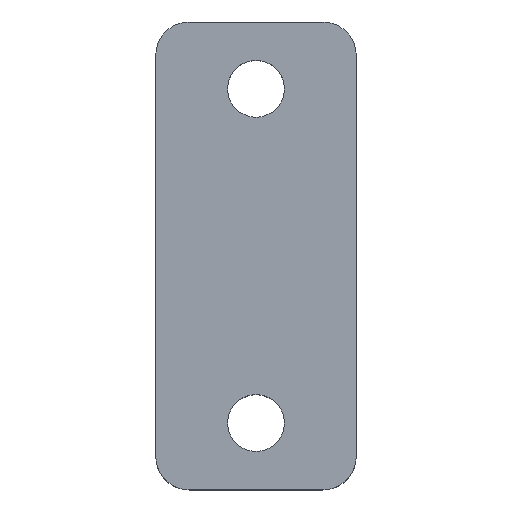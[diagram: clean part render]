
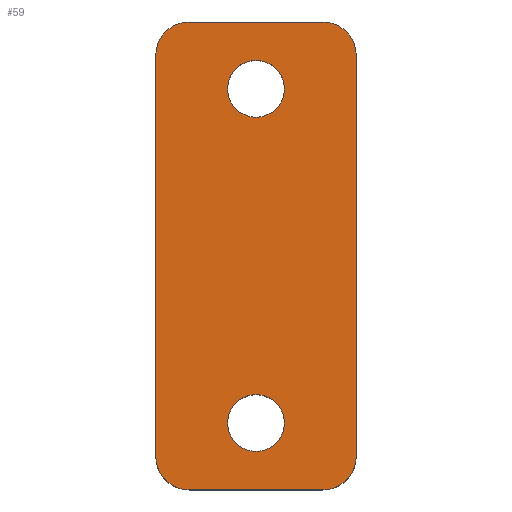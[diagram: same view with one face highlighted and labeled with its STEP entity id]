
A CAD part, top view. The second image highlights one B-rep face of the part: STEP entity #59.
In plain terms, the highlighted planar face has unit normal (0, 0, 1).
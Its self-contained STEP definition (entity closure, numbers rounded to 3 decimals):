
#21 = EDGE_CURVE('',#22,#24,#26,.T.);
#22 = VERTEX_POINT('',#23);
#23 = CARTESIAN_POINT('',(-18.,6.,20.2));
#24 = VERTEX_POINT('',#25);
#25 = CARTESIAN_POINT('',(-16.,4.,20.2));
#26 = CIRCLE('',#27,2.);
#27 = AXIS2_PLACEMENT_3D('',#28,#29,#30);
#28 = CARTESIAN_POINT('',(-16.,6.,20.2));
#29 = DIRECTION('',(0.,0.,1.));
#30 = DIRECTION('',(1.,0.,-0.));
#59 = ADVANCED_FACE('',(#60,#120,#131),#142,.T.);
#60 = FACE_BOUND('',#61,.T.);
#61 = EDGE_LOOP('',(#62,#63,#71,#80,#88,#97,#105,#114));
#62 = ORIENTED_EDGE('',*,*,#21,.T.);
#63 = ORIENTED_EDGE('',*,*,#64,.T.);
#64 = EDGE_CURVE('',#24,#65,#67,.T.);
#65 = VERTEX_POINT('',#66);
#66 = CARTESIAN_POINT('',(-8.,4.,20.2));
#67 = LINE('',#68,#69);
#68 = CARTESIAN_POINT('',(-16.,4.,20.2));
#69 = VECTOR('',#70,1.);
#70 = DIRECTION('',(1.,0.,-0.));
#71 = ORIENTED_EDGE('',*,*,#72,.T.);
#72 = EDGE_CURVE('',#65,#73,#75,.T.);
#73 = VERTEX_POINT('',#74);
#74 = CARTESIAN_POINT('',(-6.,6.,20.2));
#75 = CIRCLE('',#76,2.);
#76 = AXIS2_PLACEMENT_3D('',#77,#78,#79);
#77 = CARTESIAN_POINT('',(-8.,6.,20.2));
#78 = DIRECTION('',(0.,0.,1.));
#79 = DIRECTION('',(1.,0.,-0.));
#80 = ORIENTED_EDGE('',*,*,#81,.T.);
#81 = EDGE_CURVE('',#73,#82,#84,.T.);
#82 = VERTEX_POINT('',#83);
#83 = CARTESIAN_POINT('',(-6.,30.,20.2));
#84 = LINE('',#85,#86);
#85 = CARTESIAN_POINT('',(-6.,6.,20.2));
#86 = VECTOR('',#87,1.);
#87 = DIRECTION('',(-0.,1.,0.));
#88 = ORIENTED_EDGE('',*,*,#89,.T.);
#89 = EDGE_CURVE('',#82,#90,#92,.T.);
#90 = VERTEX_POINT('',#91);
#91 = CARTESIAN_POINT('',(-8.,32.,20.2));
#92 = CIRCLE('',#93,2.);
#93 = AXIS2_PLACEMENT_3D('',#94,#95,#96);
#94 = CARTESIAN_POINT('',(-8.,30.,20.2));
#95 = DIRECTION('',(0.,0.,1.));
#96 = DIRECTION('',(1.,0.,-0.));
#97 = ORIENTED_EDGE('',*,*,#98,.F.);
#98 = EDGE_CURVE('',#99,#90,#101,.T.);
#99 = VERTEX_POINT('',#100);
#100 = CARTESIAN_POINT('',(-16.,32.,20.2));
#101 = LINE('',#102,#103);
#102 = CARTESIAN_POINT('',(-16.,32.,20.2));
#103 = VECTOR('',#104,1.);
#104 = DIRECTION('',(1.,0.,-0.));
#105 = ORIENTED_EDGE('',*,*,#106,.T.);
#106 = EDGE_CURVE('',#99,#107,#109,.T.);
#107 = VERTEX_POINT('',#108);
#108 = CARTESIAN_POINT('',(-18.,30.,20.2));
#109 = CIRCLE('',#110,2.);
#110 = AXIS2_PLACEMENT_3D('',#111,#112,#113);
#111 = CARTESIAN_POINT('',(-16.,30.,20.2));
#112 = DIRECTION('',(0.,0.,1.));
#113 = DIRECTION('',(1.,0.,-0.));
#114 = ORIENTED_EDGE('',*,*,#115,.F.);
#115 = EDGE_CURVE('',#22,#107,#116,.T.);
#116 = LINE('',#117,#118);
#117 = CARTESIAN_POINT('',(-18.,6.,20.2));
#118 = VECTOR('',#119,1.);
#119 = DIRECTION('',(-0.,1.,0.));
#120 = FACE_BOUND('',#121,.T.);
#121 = EDGE_LOOP('',(#122));
#122 = ORIENTED_EDGE('',*,*,#123,.F.);
#123 = EDGE_CURVE('',#124,#124,#126,.T.);
#124 = VERTEX_POINT('',#125);
#125 = CARTESIAN_POINT('',(-10.3,8.,20.2));
#126 = CIRCLE('',#127,1.7);
#127 = AXIS2_PLACEMENT_3D('',#128,#129,#130);
#128 = CARTESIAN_POINT('',(-12.,8.,20.2));
#129 = DIRECTION('',(0.,0.,1.));
#130 = DIRECTION('',(1.,0.,-0.));
#131 = FACE_BOUND('',#132,.T.);
#132 = EDGE_LOOP('',(#133));
#133 = ORIENTED_EDGE('',*,*,#134,.F.);
#134 = EDGE_CURVE('',#135,#135,#137,.T.);
#135 = VERTEX_POINT('',#136);
#136 = CARTESIAN_POINT('',(-10.3,28.,20.2));
#137 = CIRCLE('',#138,1.7);
#138 = AXIS2_PLACEMENT_3D('',#139,#140,#141);
#139 = CARTESIAN_POINT('',(-12.,28.,20.2));
#140 = DIRECTION('',(0.,0.,1.));
#141 = DIRECTION('',(1.,0.,-0.));
#142 = PLANE('',#143);
#143 = AXIS2_PLACEMENT_3D('',#144,#145,#146);
#144 = CARTESIAN_POINT('',(-12.,18.,20.2));
#145 = DIRECTION('',(0.,0.,1.));
#146 = DIRECTION('',(1.,0.,-0.));
